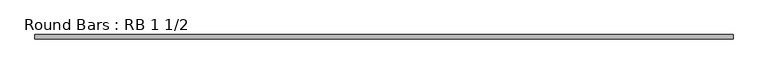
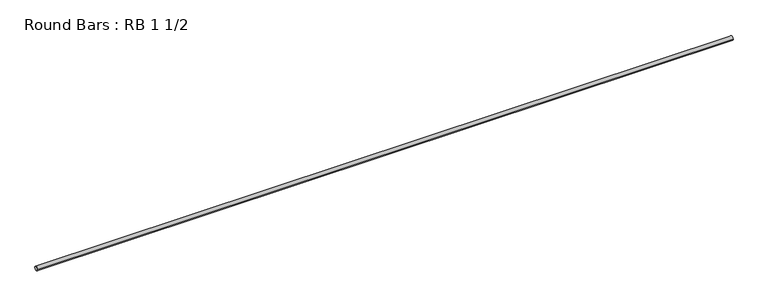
"""IFC4 building model written with IfcOpenShell, lengths in millimetres: member geometry, Round Bars : RB 1 1/2."""

from ifc_helpers import new_model, si_unit, point, frame, origin, origin_2d, place, context, project, spatial, circle_curve, trimmed, segment, composite_curve, outline, extrude, source, transform, mapped, element, save


def round_bars_rb_1_1_2_a0f59c53(model_context):
    return source(origin(), model_context, "Body", "SweptSolid", [
        extrude(outline(composite_curve([segment(trimmed(circle_curve(origin_2d(), 19.05), [point((19.05, 0.0))], [point((-19.05, 0.0))], False, "CARTESIAN"), True, "CONTINUOUS"), segment(trimmed(circle_curve(origin_2d(), 19.05), [point((-19.05, 0.0))], [point((19.05, 0.0))], False, "CARTESIAN"), True, "CONTINUOUS")], self_intersect=False)), frame((-3143.6315886, 0.0, 0.0), z_axis=(1.0, 0.0, 0.0), x_axis=(0.0, 1.0, 0.0)), (0.0, 0.0, 1.0), 6286.6379632),
    ])


if __name__ == "__main__":
    model = new_model("IFC4")
    model_context = context("Model", 3, world=origin())
    ifc_project = project(units=[si_unit("LENGTHUNIT", "METRE", prefix="MILLI")], contexts=[model_context])
    site = spatial("IfcSite", under=ifc_project)
    building = spatial("IfcBuilding", under=site)
    placement = place(None, origin())
    round_bars_rb_1_1_2_shape = round_bars_rb_1_1_2_a0f59c53(model_context)
    element("IfcMember", 1, ObjectType="Round Bars : RB 1 1/2", at=placement, inside=building, context=model_context, shape_type="MappedRepresentation", body=[
        mapped(round_bars_rb_1_1_2_shape, transform((0.0, 0.0, 0.0), x_axis=(1.0, 0.0, 0.0), y_axis=(0.0, 1.0, 0.0), z_axis=(0.0, 0.0, 1.0))),
    ])
    save(model, "model.ifc")
